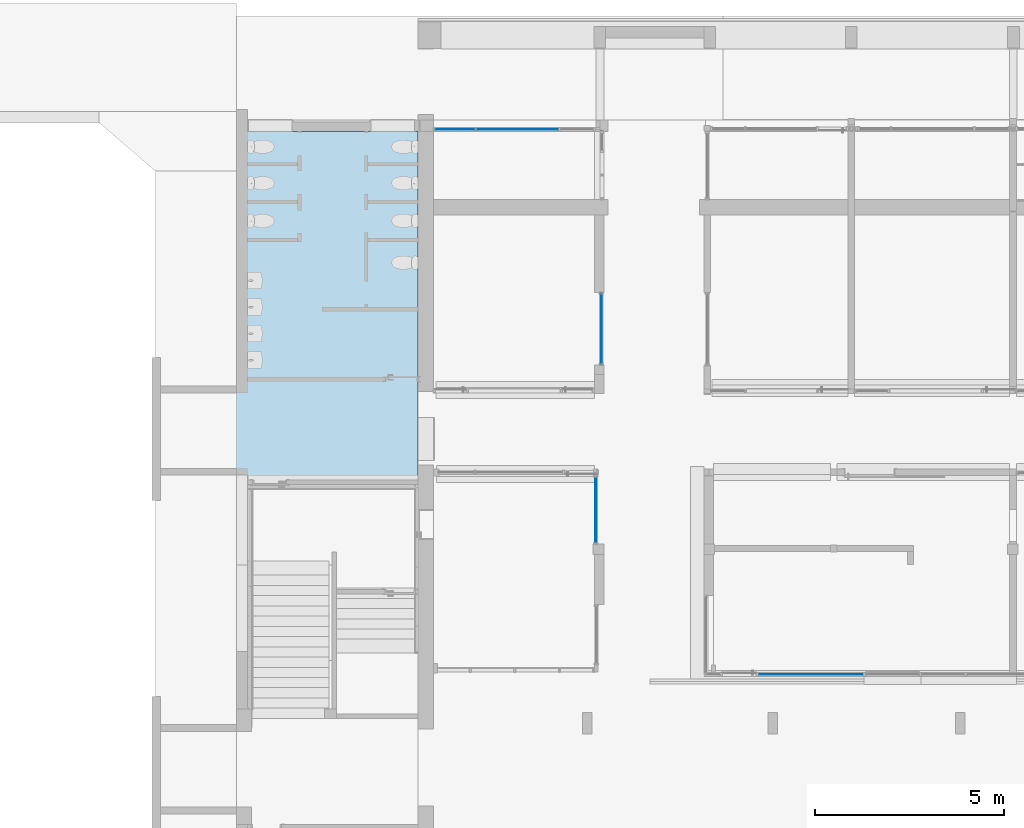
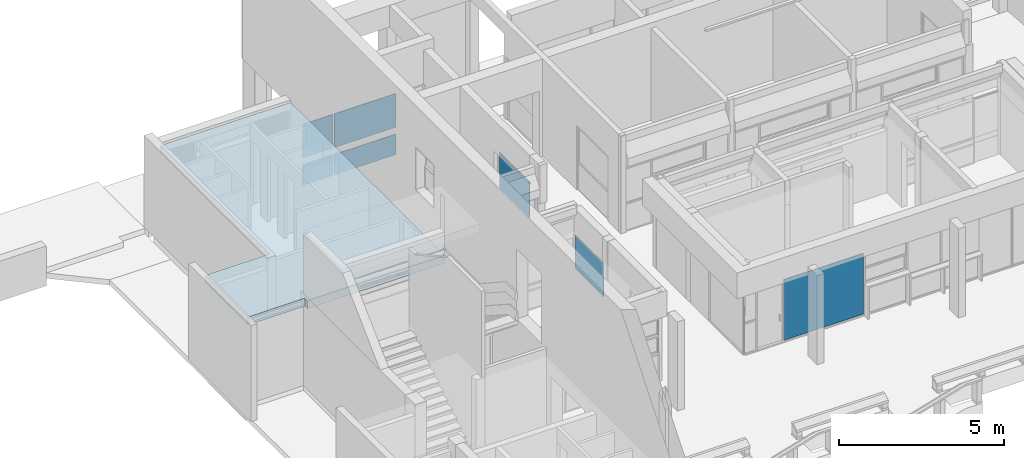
# One storey, part 31 of 117: 8 plates, 1 slab, 5 elements without a shape of their own.
"""IFC4 building model written with IfcOpenShell, lengths in metres."""

from ifc_helpers import new_model, entity, si_unit, converted_unit, derived_unit, direction, frame, origin, place, context, subcontext, project, spatial, indexed_curve, outline, extrude, source, transform, mapped, material, constituent, constituent_set, type_object, type_shapes, element, aggregate, save


model = new_model("IFC4")

# Units and contexts
model_context = context("Model", 3, precision=1e-05, world=origin(), true_north=direction((6.123031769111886e-17, 1.0)))
body_context = subcontext(model_context, "Body", "Model", "MODEL_VIEW")
ifc_project = project(units=[si_unit("LENGTHUNIT", "METRE"), si_unit("AREAUNIT", "SQUARE_METRE"), si_unit("VOLUMEUNIT", "CUBIC_METRE"), converted_unit("PLANEANGLEUNIT", "DEGREE", entity("IfcRatioMeasure", 0.017453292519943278), si_unit("PLANEANGLEUNIT", "RADIAN"), dimensions=[0, 0, 0, 0, 0, 0, 0]), si_unit("MASSUNIT", "GRAM", prefix="KILO"), derived_unit("MASSDENSITYUNIT", [(si_unit("MASSUNIT", "GRAM", prefix="KILO"), 1), (si_unit("LENGTHUNIT", "METRE"), -3)]), derived_unit("MOMENTOFINERTIAUNIT", [(si_unit("LENGTHUNIT", "METRE"), 4)]), si_unit("TIMEUNIT", "SECOND"), si_unit("FREQUENCYUNIT", "HERTZ"), si_unit("THERMODYNAMICTEMPERATUREUNIT", "DEGREE_CELSIUS"), derived_unit("THERMALTRANSMITTANCEUNIT", [(si_unit("MASSUNIT", "GRAM", prefix="KILO"), 1), (si_unit("THERMODYNAMICTEMPERATUREUNIT", "KELVIN"), -1), (si_unit("TIMEUNIT", "SECOND"), -3)]), derived_unit("VOLUMETRICFLOWRATEUNIT", [(si_unit("LENGTHUNIT", "METRE"), 3), (si_unit("TIMEUNIT", "SECOND"), -1)]), derived_unit("MASSFLOWRATEUNIT", [(si_unit("MASSUNIT", "GRAM", prefix="KILO"), 1), (si_unit("TIMEUNIT", "SECOND"), -1)]), derived_unit("ROTATIONALFREQUENCYUNIT", [(si_unit("TIMEUNIT", "SECOND"), -1)]), si_unit("ELECTRICCURRENTUNIT", "AMPERE"), si_unit("ELECTRICVOLTAGEUNIT", "VOLT"), si_unit("POWERUNIT", "WATT"), si_unit("FORCEUNIT", "NEWTON", prefix="KILO"), si_unit("ILLUMINANCEUNIT", "LUX"), si_unit("LUMINOUSFLUXUNIT", "LUMEN"), si_unit("LUMINOUSINTENSITYUNIT", "CANDELA"), derived_unit("USERDEFINED", [(si_unit("MASSUNIT", "GRAM", prefix="KILO"), -1), (si_unit("LENGTHUNIT", "METRE"), -2), (si_unit("TIMEUNIT", "SECOND"), 3), (si_unit("LUMINOUSFLUXUNIT", "LUMEN"), 1)]), derived_unit("SOUNDPOWERUNIT", [(si_unit("MASSUNIT", "GRAM", prefix="KILO"), 1), (si_unit("LENGTHUNIT", "METRE"), 2), (si_unit("TIMEUNIT", "SECOND"), -3)]), derived_unit("SOUNDPRESSUREUNIT", [(si_unit("MASSUNIT", "GRAM", prefix="KILO"), 1), (si_unit("LENGTHUNIT", "METRE"), -1), (si_unit("TIMEUNIT", "SECOND"), -2)]), derived_unit("LINEARVELOCITYUNIT", [(si_unit("LENGTHUNIT", "METRE"), 1), (si_unit("TIMEUNIT", "SECOND"), -1)]), si_unit("PRESSUREUNIT", "PASCAL"), derived_unit("USERDEFINED", [(si_unit("LENGTHUNIT", "METRE"), -2), (si_unit("MASSUNIT", "GRAM", prefix="KILO"), 1), (si_unit("TIMEUNIT", "SECOND"), -2)]), derived_unit("LINEARFORCEUNIT", [(si_unit("MASSUNIT", "GRAM", prefix="KILO"), 1), (si_unit("LENGTHUNIT", "METRE"), 1), (si_unit("TIMEUNIT", "SECOND"), -2), (si_unit("LENGTHUNIT", "METRE"), -1)]), derived_unit("PLANARFORCEUNIT", [(si_unit("MASSUNIT", "GRAM", prefix="KILO"), 1), (si_unit("LENGTHUNIT", "METRE"), 1), (si_unit("TIMEUNIT", "SECOND"), -2), (si_unit("LENGTHUNIT", "METRE"), -2)])], contexts=[model_context])

# Site, building, storey
site_placement = place(None, origin())
site = spatial("IfcSite", under=ifc_project, at=site_placement, Name="Superficie", CompositionType="ELEMENT")
building_placement = place(site_placement, origin())
building = spatial("IfcBuilding", under=site, at=building_placement, CompositionType="ELEMENT")
storey_placement = place(building_placement, origin())
storey = spatial("IfcBuildingStorey", under=building, at=storey_placement, Name="Nivel 0", CompositionType="ELEMENT", Elevation=0.0)

# Curtain wall, plate
curtain_wall_type = type_object("IfcCurtainWallType", Name="Muro cortina:Muro cortina - simple", PredefinedType="NOTDEFINED")
curtain_wall_1_placement = place(storey_placement, origin())
curtain_wall_1 = element("IfcCurtainWall", 1, at=curtain_wall_1_placement, inside=storey, type_object=curtain_wall_type, Name="Muro cortina:Muro cortina - simple", ObjectType="Muro cortina:Muro cortina - simple", PredefinedType="NOTDEFINED")
ifc_material_1 = material(Name="Cristal", Category="Vidrio")
plate_type_1 = type_object("IfcPlateType", Name="Panel de sistema:Acristalado", PredefinedType="CURTAIN_PANEL", material=ifc_material_1)
shared_shape_1 = source(origin(), body_context, "Body", "SweptSolid", [
    extrude(outline(indexed_curve([(-0.01, -0.8614917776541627), (0.01, -0.8614917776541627), (0.01, 0.8614917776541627), (-0.01, 0.8614917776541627), (-0.01, -0.8614917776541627)], self_intersect=False)), frame((0.0, 0.0, 0.0), z_axis=(0.0, 0.0, 1.0), x_axis=(0.0, 1.0, 0.0)), (0.0, 0.0, 1.0), 1.26),
])
type_shapes(plate_type_1, [shared_shape_1])
plate_1_placement = place(curtain_wall_1_placement, frame((-18.353200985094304, 2.579337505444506, 1.045), z_axis=(0.0, 0.0, 1.0), x_axis=(0.0, -1.0, 0.0)))
plate_1 = element("IfcPlate", 2, at=plate_1_placement, type_object=plate_type_1, material=ifc_material_1, Name="Panel de sistema:Acristalado", ObjectType="Panel de sistema:Acristalado", PredefinedType="CURTAIN_PANEL", context=body_context, shape_type="MappedRepresentation", body=[
    mapped(shared_shape_1, transform((0.0, 0.0, 0.0), scale=1.0)),
])
aggregate(curtain_wall_1, [plate_1])

# Curtain wall, plates
curtain_wall_2_placement = place(storey_placement, origin())
curtain_wall_2 = element("IfcCurtainWall", 3, at=curtain_wall_2_placement, inside=storey, type_object=curtain_wall_type, Name="Muro cortina:Muro cortina - simple", ObjectType="Muro cortina:Muro cortina - simple", PredefinedType="NOTDEFINED")
plate_type_2 = type_object("IfcPlateType", Name="Panel de sistema:Acristalado", PredefinedType="CURTAIN_PANEL", material=ifc_material_1)
shared_shape_2 = source(origin(), body_context, "Body", "SweptSolid", [
    extrude(outline(indexed_curve([(-0.01, -0.9080426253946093), (0.01, -0.9080426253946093), (0.01, 0.9080426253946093), (-0.01, 0.9080426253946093), (-0.01, -0.9080426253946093)], self_intersect=False)), frame((0.0, 0.0, 0.0), z_axis=(0.0, 0.0, 1.0), x_axis=(0.0, 1.0, 0.0)), (0.0, 0.0, 1.0), 1.2399999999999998),
])
type_shapes(plate_type_2, [shared_shape_2])
plate_2_placement = place(curtain_wall_2_placement, frame((-18.208200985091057, 7.3627866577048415, 1.0450000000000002), z_axis=(0.0, 0.0, 1.0), x_axis=(0.0, 1.0, 0.0)))
plate_2 = element("IfcPlate", 4, at=plate_2_placement, type_object=plate_type_2, material=ifc_material_1, Name="Panel de sistema:Acristalado", ObjectType="Panel de sistema:Acristalado", PredefinedType="CURTAIN_PANEL", context=body_context, shape_type="MappedRepresentation", body=[
    mapped(shared_shape_2, transform((0.0, 0.0, 0.0), scale=1.0)),
])
plate_type_3 = type_object("IfcPlateType", Name="Panel de sistema:Acristalado", PredefinedType="CURTAIN_PANEL", material=ifc_material_1)
shared_shape_3 = source(origin(), body_context, "Body", "SweptSolid", [
    extrude(outline(indexed_curve([(-0.01, -0.933042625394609), (0.01, -0.933042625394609), (0.01, 0.933042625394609), (-0.01, 0.933042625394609), (-0.01, -0.933042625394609)], self_intersect=False)), frame((0.0, 0.0, 0.0), z_axis=(0.0, 0.0, 1.0), x_axis=(0.0, 1.0, 0.0)), (0.0, 0.0, 1.0), 0.020000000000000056),
])
type_shapes(plate_type_3, [shared_shape_3])
plate_3_placement = place(curtain_wall_2_placement, frame((-18.208200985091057, 7.3627866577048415, 2.33), z_axis=(0.0, 0.0, 1.0), x_axis=(0.0, 1.0, 0.0)))
plate_3 = element("IfcPlate", 5, at=plate_3_placement, type_object=plate_type_3, material=ifc_material_1, Name="Panel de sistema:Acristalado", ObjectType="Panel de sistema:Acristalado", PredefinedType="CURTAIN_PANEL", context=body_context, shape_type="MappedRepresentation", body=[
    mapped(shared_shape_3, transform((0.0, 0.0, 0.0), scale=1.0)),
])
aggregate(curtain_wall_2, [plate_2, plate_3])

curtain_wall_3_placement = place(storey_placement, origin())
curtain_wall_3 = element("IfcCurtainWall", 6, at=curtain_wall_3_placement, inside=storey, type_object=curtain_wall_type, Name="Muro cortina:Muro cortina - simple", ObjectType="Muro cortina:Muro cortina - simple", PredefinedType="NOTDEFINED")
plate_type_4 = type_object("IfcPlateType", Name="Panel de sistema:Acristalado", PredefinedType="CURTAIN_PANEL", material=ifc_material_1)
shared_shape_4 = source(origin(), body_context, "Body", "SweptSolid", [
    extrude(outline(indexed_curve([(-0.01, -1.0775000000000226), (0.01, -1.0775000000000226), (0.01, 1.0775000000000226), (-0.01, 1.0775000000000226), (-0.01, -1.0775000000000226)], self_intersect=False)), frame((0.0, 0.0, 0.0), z_axis=(0.0, 0.0, 1.0), x_axis=(0.0, 1.0, 0.0)), (0.0, 0.0, 1.0), 0.7599999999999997),
])
type_shapes(plate_type_4, [shared_shape_4])
plate_4_placement = place(curtain_wall_3_placement, frame((-20.420700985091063, 12.620829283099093, 0.04499999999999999), z_axis=(0.0, 0.0, 1.0), x_axis=(-1.0, 0.0, 0.0)))
plate_4 = element("IfcPlate", 7, at=plate_4_placement, type_object=plate_type_4, material=ifc_material_1, Name="Panel de sistema:Acristalado", ObjectType="Panel de sistema:Acristalado", PredefinedType="CURTAIN_PANEL", context=body_context, shape_type="MappedRepresentation", body=[
    mapped(shared_shape_4, transform((0.0, 0.0, 0.0), scale=1.0)),
])
plate_type_5 = type_object("IfcPlateType", Name="Panel de sistema:Acristalado", PredefinedType="CURTAIN_PANEL", material=ifc_material_1)
shared_shape_5 = source(origin(), body_context, "Body", "SweptSolid", [
    extrude(outline(indexed_curve([(-0.01, -0.5225000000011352), (0.01, -0.5225000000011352), (0.01, 0.5225000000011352), (-0.01, 0.5225000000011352), (-0.01, -0.5225000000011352)], self_intersect=False)), frame((0.0, 0.0, 0.0), z_axis=(0.0, 0.0, 1.0), x_axis=(0.0, 1.0, 0.0)), (0.0, 0.0, 1.0), 0.7599999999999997),
])
type_shapes(plate_type_5, [shared_shape_5])
plate_5_placement = place(curtain_wall_3_placement, frame((-22.070700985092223, 12.620829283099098, 0.04499999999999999), z_axis=(0.0, 0.0, 1.0), x_axis=(-1.0, 0.0, 0.0)))
plate_5 = element("IfcPlate", 8, at=plate_5_placement, type_object=plate_type_5, material=ifc_material_1, Name="Panel de sistema:Acristalado", ObjectType="Panel de sistema:Acristalado", PredefinedType="CURTAIN_PANEL", context=body_context, shape_type="MappedRepresentation", body=[
    mapped(shared_shape_5, transform((0.0, 0.0, 0.0), scale=1.0)),
])
plate_type_6 = type_object("IfcPlateType", Name="Panel de sistema:Acristalado", PredefinedType="CURTAIN_PANEL", material=ifc_material_1)
shared_shape_6 = source(origin(), body_context, "Body", "SweptSolid", [
    extrude(outline(indexed_curve([(-0.01, -1.0775000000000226), (0.01, -1.0775000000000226), (0.01, 1.0775000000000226), (-0.01, 1.0775000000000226), (-0.01, -1.0775000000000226)], self_intersect=False)), frame((0.0, 0.0, 0.0), z_axis=(0.0, 0.0, 1.0), x_axis=(0.0, 1.0, 0.0)), (0.0, 0.0, 1.0), 1.2500000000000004),
])
type_shapes(plate_type_6, [shared_shape_6])
plate_6_placement = place(curtain_wall_3_placement, frame((-20.420700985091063, 12.620829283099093, 1.0549999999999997), z_axis=(0.0, 0.0, 1.0), x_axis=(-1.0, 0.0, 0.0)))
plate_6 = element("IfcPlate", 9, at=plate_6_placement, type_object=plate_type_6, material=ifc_material_1, Name="Panel de sistema:Acristalado", ObjectType="Panel de sistema:Acristalado", PredefinedType="CURTAIN_PANEL", context=body_context, shape_type="MappedRepresentation", body=[
    mapped(shared_shape_6, transform((0.0, 0.0, 0.0), scale=1.0)),
])
plate_type_7 = type_object("IfcPlateType", Name="Panel de sistema:Acristalado", PredefinedType="CURTAIN_PANEL", material=ifc_material_1)
shared_shape_7 = source(origin(), body_context, "Body", "SweptSolid", [
    extrude(outline(indexed_curve([(-0.01, -0.5225000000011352), (0.01, -0.5225000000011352), (0.01, 0.5225000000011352), (-0.01, 0.5225000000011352), (-0.01, -0.5225000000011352)], self_intersect=False)), frame((0.0, 0.0, 0.0), z_axis=(0.0, 0.0, 1.0), x_axis=(0.0, 1.0, 0.0)), (0.0, 0.0, 1.0), 1.2500000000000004),
])
type_shapes(plate_type_7, [shared_shape_7])
plate_7_placement = place(curtain_wall_3_placement, frame((-22.070700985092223, 12.620829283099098, 1.0549999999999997), z_axis=(0.0, 0.0, 1.0), x_axis=(-1.0, 0.0, 0.0)))
plate_7 = element("IfcPlate", 10, at=plate_7_placement, type_object=plate_type_7, material=ifc_material_1, Name="Panel de sistema:Acristalado", ObjectType="Panel de sistema:Acristalado", PredefinedType="CURTAIN_PANEL", context=body_context, shape_type="MappedRepresentation", body=[
    mapped(shared_shape_7, transform((0.0, 0.0, 0.0), scale=1.0)),
])
aggregate(curtain_wall_3, [plate_4, plate_5, plate_6, plate_7])

# Roof, slab
roof_placement = place(storey_placement, frame((-29.843200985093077, 3.245829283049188, 3.0)))
roof = element("IfcRoof", 11, at=roof_placement, inside=storey, Name="Cubierta básica:Plana tradicional transitable - 30 cm 2", ObjectType="Cubierta básica:Plana tradicional transitable - 30 cm 2", PredefinedType="NOTDEFINED")
ifc_material_2 = material(Name="Cerámica blanca", Category="Cerámica")
ifc_constituent_1 = constituent(ifc_material_2, Name="Cerámica blanca", Category="Cerámica")
ifc_material_3 = material(Name="Hormigón y arena", Category="Hormigón")
ifc_constituent_2 = constituent(ifc_material_3, Name="Hormigón y arena", Category="Hormigón")
ifc_material_4 = material(Name="Aislamiento térmico", Category="Varios")
ifc_constituent_3 = constituent(ifc_material_4, Name="Aislamiento térmico", Category="Varios")
ifc_material_5 = material(Name="Hormigón", Category="Hormigón")
ifc_constituent_4 = constituent(ifc_material_5, Name="Hormigón", Category="Hormigón")
ifc_constituent_set = constituent_set(constituents=[ifc_constituent_1, ifc_constituent_2, ifc_constituent_3, ifc_constituent_4], Name="Cubierta básica:Plana tradicional transitable - 30 cm 2")
slab_type = type_object("IfcSlabType", Name="Cubierta básica:Plana tradicional transitable - 30 cm 2", PredefinedType="ROOF")
slab_placement = place(roof_placement, origin())
slab = element("IfcSlab", 12, at=slab_placement, type_object=slab_type, material=ifc_constituent_set, Name="Cubierta básica:Plana tradicional transitable - 30 cm 2", ObjectType="Cubierta básica:Plana tradicional transitable - 30 cm 2", PredefinedType="ROOF", context=body_context, shape_type="SweptSolid", body=[
    extrude(outline(indexed_curve([(-1.1549999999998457, -1.9574999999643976), (-3.3999999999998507, -1.9574999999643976), (-3.3999999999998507, -2.0574999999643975), (-3.3999999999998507, -4.412499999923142), (-3.3999999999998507, -4.512499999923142), (-1.3999999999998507, -4.512499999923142), (-1.3999999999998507, -4.662500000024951), (3.3999999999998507, -4.662500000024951), (3.3999999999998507, 4.662500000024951), (-1.1549999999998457, 4.662500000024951), (-1.1549999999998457, -1.9574999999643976)], self_intersect=False)), frame((3.3999999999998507, 4.662500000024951, 0.0)), (0.0, 0.0, 1.0), 0.02),
    extrude(outline(indexed_curve([(-1.1549999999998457, -1.9574999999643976), (-3.3999999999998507, -1.9574999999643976), (-3.3999999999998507, -2.0574999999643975), (-3.3999999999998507, -4.412499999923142), (-3.3999999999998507, -4.512499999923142), (-1.3999999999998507, -4.512499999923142), (-1.3999999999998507, -4.662500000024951), (3.3999999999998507, -4.662500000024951), (3.3999999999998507, 4.662500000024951), (-1.1549999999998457, 4.662500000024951), (-1.1549999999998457, -1.9574999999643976)], self_intersect=False)), frame((3.3999999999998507, 4.662500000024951, 0.019999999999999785)), (0.0, 0.0, 1.0), 0.08),
    extrude(outline(indexed_curve([(-1.1549999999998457, -1.9574999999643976), (-3.3999999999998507, -1.9574999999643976), (-3.3999999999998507, -2.0574999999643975), (-3.3999999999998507, -4.412499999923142), (-3.3999999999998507, -4.512499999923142), (-1.3999999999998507, -4.512499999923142), (-1.3999999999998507, -4.662500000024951), (3.3999999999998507, -4.662500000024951), (3.3999999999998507, 4.662500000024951), (-1.1549999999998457, 4.662500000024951), (-1.1549999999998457, -1.9574999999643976)], self_intersect=False)), frame((3.3999999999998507, 4.662500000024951, 0.1)), (0.0, 0.0, 1.0), 0.08),
    extrude(outline(indexed_curve([(-1.1549999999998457, -1.9574999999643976), (-3.3999999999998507, -1.9574999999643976), (-3.3999999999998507, -2.0574999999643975), (-3.3999999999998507, -4.412499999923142), (-3.3999999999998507, -4.512499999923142), (-1.3999999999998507, -4.512499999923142), (-1.3999999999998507, -4.662500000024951), (3.3999999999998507, -4.662500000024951), (3.3999999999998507, 4.662500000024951), (-1.1549999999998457, 4.662500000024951), (-1.1549999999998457, -1.9574999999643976)], self_intersect=False)), frame((3.3999999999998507, 4.662500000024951, 0.18000000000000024)), (0.0, 0.0, 1.0), 0.12),
])
aggregate(roof, [slab])

# Curtain wall, plate
curtain_wall_4_placement = place(storey_placement, origin())
curtain_wall_4 = element("IfcCurtainWall", 13, at=curtain_wall_4_placement, inside=storey, type_object=curtain_wall_type, Name="Muro cortina:Muro cortina - simple", ObjectType="Muro cortina:Muro cortina - simple", PredefinedType="NOTDEFINED")
plate_type_8 = type_object("IfcPlateType", Name="Panel de sistema:Acristalado", PredefinedType="CURTAIN_PANEL", material=ifc_material_1)
shared_shape_8 = source(origin(), body_context, "Body", "SweptSolid", [
    extrude(outline(indexed_curve([(-1.2025000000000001, -1.3892174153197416), (-0.27749999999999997, -1.3892174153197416), (-0.07749999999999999, -1.3892174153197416), (0.5099999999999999, -1.3892174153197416), (1.0474999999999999, -1.3892174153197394), (1.0475, 1.3892174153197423), (0.5099999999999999, 1.38921741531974), (-0.07750000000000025, 1.38921741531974), (-0.27749999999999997, 1.3892174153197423), (-1.2025000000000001, 1.3892174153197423), (-1.2025000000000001, -1.3892174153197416)], self_intersect=False)), frame((0.0, -0.01, 1.2025000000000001), z_axis=(0.0, 1.0, 0.0), x_axis=(0.0, 0.0, 1.0)), (0.0, 0.0, 1.0), 0.02),
])
type_shapes(plate_type_8, [shared_shape_8])
plate_8_placement = place(curtain_wall_4_placement, frame((-12.678983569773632, -1.764170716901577, 0.05)))
plate_8 = element("IfcPlate", 14, at=plate_8_placement, type_object=plate_type_8, material=ifc_material_1, Name="Panel de sistema:Acristalado", ObjectType="Panel de sistema:Acristalado", PredefinedType="CURTAIN_PANEL", context=body_context, shape_type="MappedRepresentation", body=[
    mapped(shared_shape_8, transform((0.0, 0.0, 0.0), scale=1.0)),
])
aggregate(curtain_wall_4, [plate_8])

save(model, "model.ifc")
